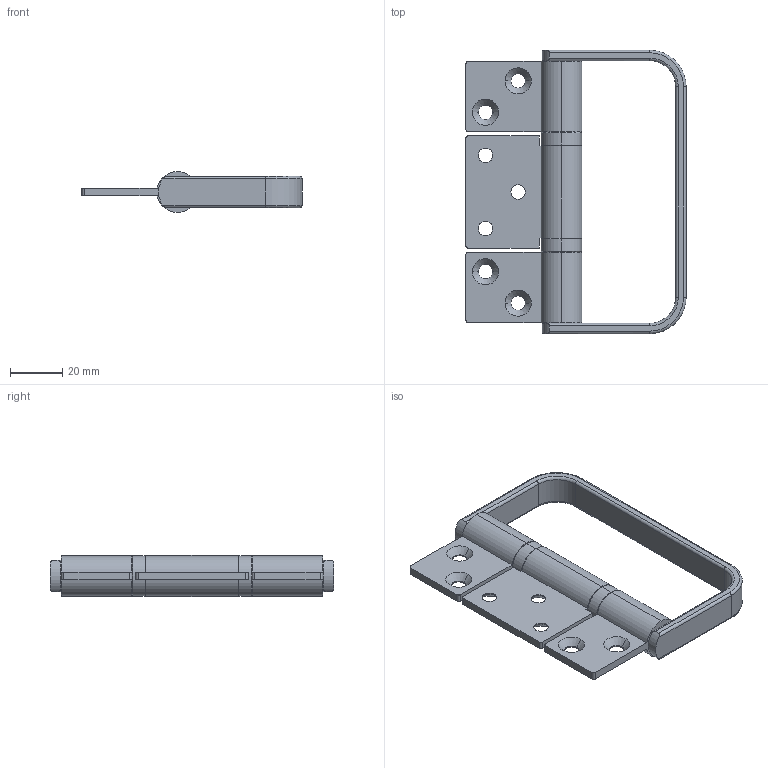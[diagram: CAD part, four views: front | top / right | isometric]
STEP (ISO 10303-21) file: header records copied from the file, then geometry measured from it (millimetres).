
FILE_DESCRIPTION (( 'STEP AP214' ), '1' );
FILE_NAME ('E3 Straight Hinge with Handle - Closed.STEP', '2024-06-26T04:15:16', ( '' ), ( '' ), 'SwSTEP 2.0', 'SolidWorks 2023', '' );
FILE_SCHEMA (( 'AUTOMOTIVE_DESIGN' ));
Length unit declared in the file: millimetre
Products named in the file (5): E3 Straight Flap Outer B^E3 Straight Hinge with handle; E3 Straight Hinge with Handle - Closed; E3 Straight Flap Outer A^E3 Straight Hinge with handle; E3 Hinge Pin with Handle^E3 Straight Hinge with handle; E3 Straight Flap Middle^E3 Straight Hinge with handle
Assembly tree (4 placements, depth 2):
  E3 Straight Hinge with Handle - Closed
    E3 Hinge Pin with Handle^E3 Straight Hinge with handle
    E3 Straight Flap Outer B^E3 Straight Hinge with handle
    E3 Straight Flap Outer A^E3 Straight Hinge with handle
    E3 Straight Flap Middle^E3 Straight Hinge with handle
Bounding box: 84.25 x 108.5 x 15.7 mm (x, y, z)
Volume: 35815.7 mm3; surface area: 23491.3 mm2
Topology: 4 solids, 4 shells, 124 faces, 298 edges, 186 vertices
Faces by surface type: cylinder 63, plane 31, cone 22, torus 8
Entity records: 3880 total; most frequent: DIRECTION 700, CARTESIAN_POINT 687, ORIENTED_EDGE 596, EDGE_CURVE 298, AXIS2_PLACEMENT_3D 279, VERTEX_POINT 186, EDGE_LOOP 150, CIRCLE 148
